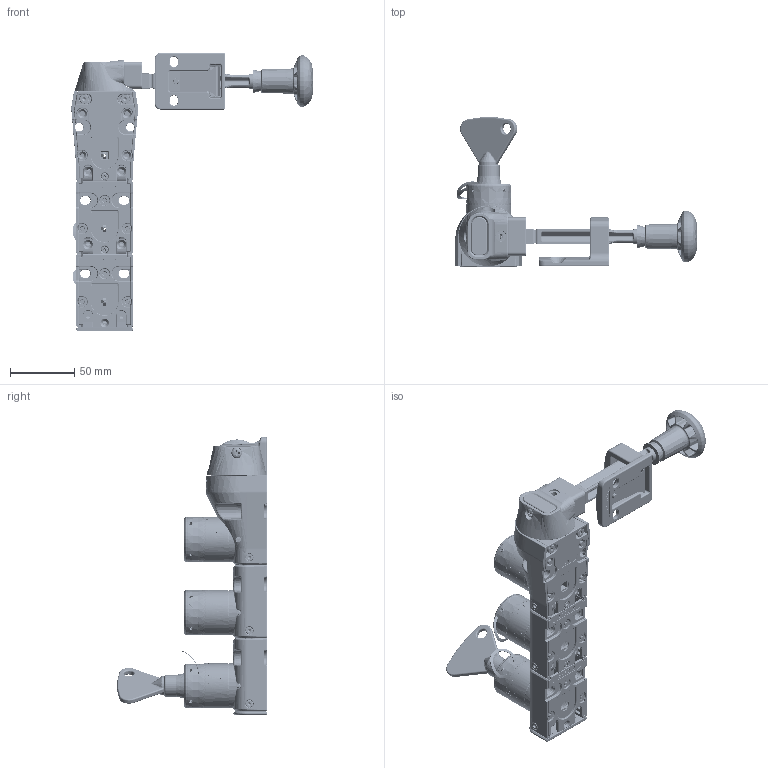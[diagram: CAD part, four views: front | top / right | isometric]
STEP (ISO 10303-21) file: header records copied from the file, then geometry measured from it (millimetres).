
FILE_DESCRIPTION((''),'2;1');
FILE_NAME('DM3-2-1-MLIN-H_ASM','2021-02-19T08:59:08',('ahorseman'),(''),'CREO PARAMETRIC BY PTC INC, 2019471','CREO PARAMETRIC BY PTC INC, 2019471','');
FILE_SCHEMA(('CONFIG_CONTROL_DESIGN'));
Products named in the file (44): F40743_DM_BASE; F40746_DM_BELLMOUTH; F55660_DM_BELLMOUTH_PIN; F65117_DM_PINION_SPRING; F49417_LEFT_HAND_DM_PINION; F49418_RIGHT_HAND_DM_PINION; F45077_DM_LOCKING_PLUNGER_AF0; S910084_DM_BELLMOUTH_ASSEY_AF0_ASM; DM_LOCKING_PLATE_BENT; F40742_MAZAK_DM_BODY; F41538_3_SQR_SPINDLE_CAST; F52616_90_STOP_PLATE; F40707_STD_CL_MIDDLE_CASE; 1-8X8_TENSION_PIN; F71728_LOCK_LABEL_ROLLED; S940183_DM-CL_MODULE_ASM; S910049_CL_LOCK_BARREL_ASM; F40706_CL_FRONT_CASE; M4X25_CAP_HEAD; F48043_DM_BELLMOUTH_PLUG; M4X8_POZI_DRIVE_PANHEAD; F49416_BI-DIRECTIONAL_DM_CAM; F52662_DM_BASE_COVER; F40767_DMS_XMS_REAR_COVER_CAST_; M3X8_CAP_HEAD; F46325_DM_HAND_ACT_BRACKET; F65119_DM_LEAF_SPRING_DEFLECTED; F46323_DM_HAND_OP_ACTUATOR; F50278_CAST_SLIDE_BAR__STANDARD; M8_LIGHT_WASHER; M6_LIGHT_WASHER; DM_2ND_ACTUATOR_0_ASM; DM-H_ASM; M3X5_POZI_DRIVE; F65113_WAVE_WASHER; F40745_XM_BASE; XM_RUNNER_BAR_MACHINED; F40744_MAZAK_XM_BODY; F41538_3_SQR_SPINDLE; S940185_XM-CL_MODULE_ASM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
Assembly tree (74 placements, depth 4):
  DM3-2-1-MLIN-H_ASM
    S940183_DM-CL_MODULE_ASM
      F40743_DM_BASE
      S910084_DM_BELLMOUTH_ASSEY_AF0_ASM
        F40746_DM_BELLMOUTH
        F55660_DM_BELLMOUTH_PIN
        F65117_DM_PINION_SPRING
        F49417_LEFT_HAND_DM_PINION
        F49418_RIGHT_HAND_DM_PINION
        F45077_DM_LOCKING_PLUNGER_AF0
      DM_LOCKING_PLATE_BENT
      F40742_MAZAK_DM_BODY
      F41538_3_SQR_SPINDLE_CAST
      F52616_90_STOP_PLATE
      F40707_STD_CL_MIDDLE_CASE
      1-8X8_TENSION_PIN  x2
      F71728_LOCK_LABEL_ROLLED
    S910049_CL_LOCK_BARREL_ASM
    F40706_CL_FRONT_CASE  x3
    1-8X8_TENSION_PIN  x12
    M4X25_CAP_HEAD  x2
    F48043_DM_BELLMOUTH_PLUG
    M4X8_POZI_DRIVE_PANHEAD
    F49416_BI-DIRECTIONAL_DM_CAM
    F52662_DM_BASE_COVER  x3
    F40767_DMS_XMS_REAR_COVER_CAST_
    M3X8_CAP_HEAD  x6
    DM-H_ASM
      DM_2ND_ACTUATOR_0_ASM
        F46325_DM_HAND_ACT_BRACKET
        F65119_DM_LEAF_SPRING_DEFLECTED
        F46323_DM_HAND_OP_ACTUATOR
        F50278_CAST_SLIDE_BAR__STANDARD
        M8_LIGHT_WASHER
        M6_LIGHT_WASHER
    M3X5_POZI_DRIVE  x2
    F65113_WAVE_WASHER  x2
    S940185_XM-CL_MODULE_ASM  x2
      F40745_XM_BASE
      XM_RUNNER_BAR_MACHINED
      F40744_MAZAK_XM_BODY
      F41538_3_SQR_SPINDLE
      F52616_90_STOP_PLATE
      F40707_STD_CL_MIDDLE_CASE
      1-8X8_TENSION_PIN
      F71728_LOCK_LABEL_ROLLED
    CLK_CL_KEY_CLOCKWISE_ASM
      F46311_CL_CODED_KEY_CLOCK
      F72034_GREY_CL_KEY_SEAL
Bounding box: 188.64 x 116.73 x 217.5 mm (x, y, z)
Volume: 270249.7 mm3; surface area: 223574.2 mm2
Topology: 75 solids, 108 shells, 19334 faces, 46941 edges, 28171 vertices
Faces by surface type: bspline 6197, cylinder 4631, plane 4458, torus 1780, extrusion 936, sphere 800, cone 530, revolution 2
Entity records: 495627 total; most frequent: CARTESIAN_POINT 235151, ORIENTED_EDGE 58616, DIRECTION 47188, EDGE_CURVE 29341, AXIS2_PLACEMENT_3D 17822, VERTEX_POINT 17386, EDGE_LOOP 12742, FACE_OUTER_BOUND 12277
